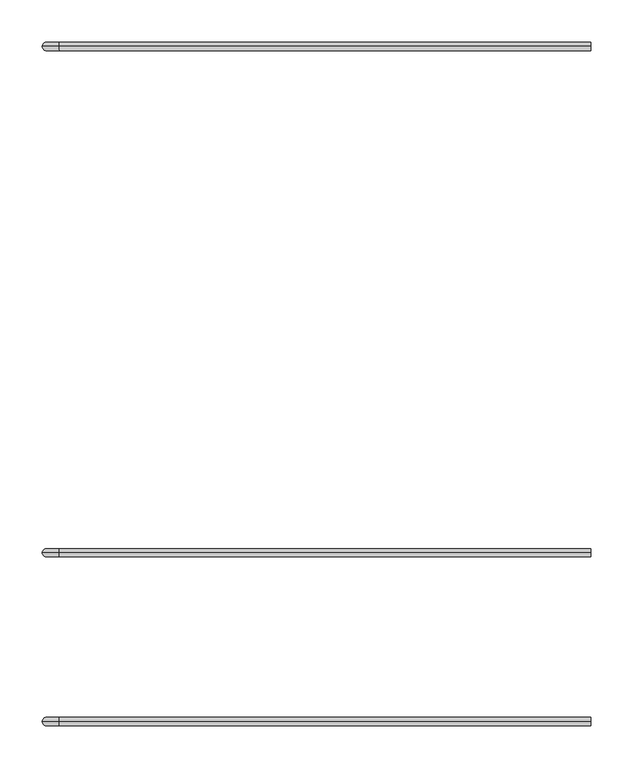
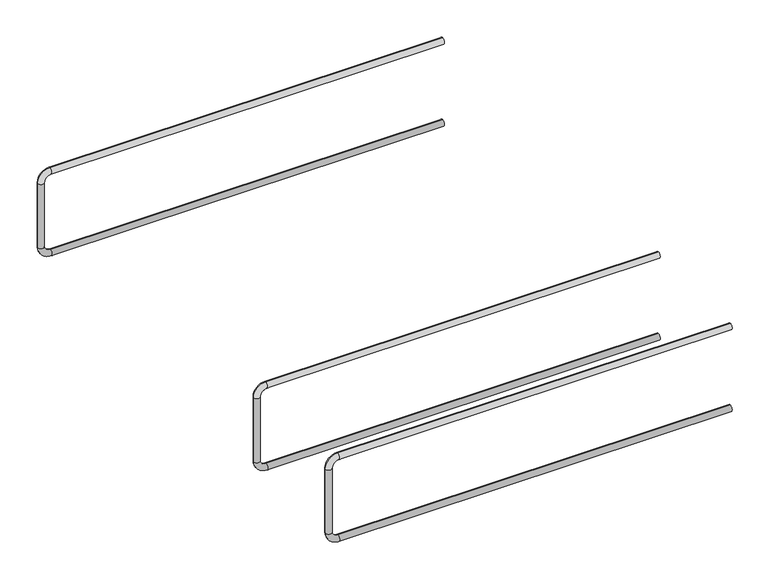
"""IFC4 building model written with IfcOpenShell, lengths in millimetres: proxy geometry, ACINOXplus_Typenreihe_Ux-Ox : UD+ S2."""

from ifc_helpers import new_model, si_unit, point, frame, origin, place, context, project, spatial, circle_curve, ellipse_curve, trimmed, source, transform, mapped, element, save
from ifc_brep_helpers import plane_surface, cylinder_surface, revolved_surface, advanced_brep


def generic_models_6559ae0d(model_context):
    return source(origin(), model_context, "Body", "AdvancedBrep", [
        advanced_brep(
        [(440.0, -200.0, -25.5), (440.0, -200.0, -35.5), (-190.0, -200.0, -25.5), (-190.0, -200.0, -35.5), (-200.0, -200.0, -45.5), (-210.0, -200.0, -45.5), (-210.0, -200.0, -154.5), (-200.0, -200.0, -154.5), (-190.0, -200.0, -164.5), (-190.0, -200.0, -174.5), (440.0, -200.0, -174.5), (440.0, -200.0, -164.5)],
        [
            (0, 1, circle_curve(frame((440.0, -200.0, -30.5), z_axis=(1.0, 0.0, 0.0), x_axis=(0.0, 0.0, -1.0)), 5.0)),
            (1, 0, circle_curve(frame((440.0, -200.0, -30.5), z_axis=(1.0, 0.0, 0.0), x_axis=(0.0, 0.0, -1.0)), 5.0)),
            (0, 2),
            (2, 3, circle_curve(frame((-190.0, -200.0, -30.5), z_axis=(1.0, 0.0, 0.0), x_axis=(0.0, 0.0, -1.0)), 5.0)),
            (3, 1),
            (3, 2, circle_curve(frame((-190.0, -200.0, -30.5), z_axis=(1.0, 0.0, 0.0), x_axis=(0.0, 0.0, -1.0)), 5.0)),
            (4, 3, circle_curve(frame((-190.0, -200.0, -45.5), z_axis=(0.0, 1.0, 0.0), x_axis=(0.0, 0.0, 1.0)), 10.0)),
            (2, 5, circle_curve(frame((-190.0, -200.0, -45.5), z_axis=(0.0, -1.0, 0.0), x_axis=(0.0, 0.0, 1.0)), 20.0)),
            (5, 4, circle_curve(frame((-205.0, -200.0, -45.5), z_axis=(0.0, 0.0, 1.0), x_axis=(1.0, 0.0, 0.0)), 5.0)),
            (4, 5, circle_curve(frame((-205.0, -200.0, -45.5), z_axis=(0.0, 0.0, 1.0), x_axis=(1.0, 0.0, 0.0)), 5.0)),
            (5, 6),
            (6, 7, circle_curve(frame((-205.0, -200.0, -154.5), z_axis=(0.0, 0.0, 1.0), x_axis=(1.0, 0.0, 0.0)), 5.0)),
            (7, 4),
            (7, 6, circle_curve(frame((-205.0, -200.0, -154.5), z_axis=(0.0, 0.0, 1.0), x_axis=(1.0, 0.0, 0.0)), 5.0)),
            (8, 7, circle_curve(frame((-190.0, -200.0, -154.5), z_axis=(0.0, 1.0, 0.0), x_axis=(-1.0, 0.0, 0.0)), 10.0)),
            (6, 9, circle_curve(frame((-190.0, -200.0, -154.5), z_axis=(0.0, -1.0, 0.0), x_axis=(-1.0, 0.0, 0.0)), 20.0)),
            (9, 8, circle_curve(frame((-190.0, -200.0, -169.5), z_axis=(-1.0, 0.0, 0.0), x_axis=(0.0, 0.0, 1.0)), 5.0)),
            (8, 9, circle_curve(frame((-190.0, -200.0, -169.5), z_axis=(-1.0, 0.0, 0.0), x_axis=(0.0, 0.0, 1.0)), 5.0)),
            (10, 11, circle_curve(frame((440.0, -200.0, -169.5), z_axis=(1.0, 0.0, 0.0), x_axis=(0.0, 0.0, 1.0)), 5.0)),
            (11, 10, circle_curve(frame((440.0, -200.0, -169.5), z_axis=(1.0, 0.0, 0.0), x_axis=(0.0, 0.0, 1.0)), 5.0)),
            (9, 10),
            (11, 8),
        ],
        [
            plane_surface(frame((440.0, -200.0, -30.5), z_axis=(1.0, 0.0, 0.0), x_axis=(0.0, -1.0, 0.0))),
            cylinder_surface(frame((440.0, -200.0, -30.5), z_axis=(1.0, 0.0, 0.0), x_axis=(0.0, 0.0, -1.0)), 5.0),
            revolved_surface(trimmed(ellipse_curve(frame((-190.0, -200.0, -30.5), z_axis=(1.0, 0.0, 0.0), x_axis=(0.0, 0.0, -1.0)), 5.0, 5.0), [point((-190.0, -200.0, -25.5))], [point((-190.0, -200.0, -35.5))], True, "CARTESIAN"), (-190.0, -200.0, -45.5), (0.0, -1.0, 0.0)),
            revolved_surface(trimmed(ellipse_curve(frame((-190.0, -200.0, -30.5), z_axis=(1.0, 0.0, 0.0), x_axis=(0.0, 0.0, -1.0)), 5.0, 5.0), [point((-190.0, -200.0, -35.5))], [point((-190.0, -200.0, -25.5))], True, "CARTESIAN"), (-190.0, -200.0, -45.5), (0.0, -1.0, 0.0)),
            cylinder_surface(frame((-205.0, -200.0, -45.5), z_axis=(0.0, 0.0, 1.0), x_axis=(1.0, 0.0, 0.0)), 5.0),
            revolved_surface(trimmed(ellipse_curve(frame((-205.0, -200.0, -154.5), z_axis=(0.0, 0.0, 1.0), x_axis=(1.0, 0.0, 0.0)), 5.0, 5.0), [point((-210.0, -200.0, -154.5))], [point((-200.0, -200.0, -154.5))], True, "CARTESIAN"), (-190.0, -200.0, -154.5), (0.0, -1.0, 0.0)),
            revolved_surface(trimmed(ellipse_curve(frame((-205.0, -200.0, -154.5), z_axis=(0.0, 0.0, 1.0), x_axis=(1.0, 0.0, 0.0)), 5.0, 5.0), [point((-200.0, -200.0, -154.5))], [point((-210.0, -200.0, -154.5))], True, "CARTESIAN"), (-190.0, -200.0, -154.5), (0.0, -1.0, 0.0)),
            plane_surface(frame((440.0, -200.0, -169.5), z_axis=(1.0, 0.0, 0.0), x_axis=(0.0, -1.0, 0.0))),
            cylinder_surface(frame((-190.0, -200.0, -169.5), z_axis=(-1.0, 0.0, 0.0), x_axis=(0.0, 0.0, 1.0)), 5.0),
        ],
        [
            (0, [[1, 2]]),
            (1, [[-1, 3, 4, 5]]),
            (1, [[-2, -5, 6, -3]]),
            (2, [[7, -4, 8, 9]]),
            (3, [[-8, -6, -7, 10]]),
            (4, [[-9, 11, 12, 13]]),
            (4, [[-10, -13, 14, -11]]),
            (5, [[15, -12, 16, 17]]),
            (6, [[-16, -14, -15, 18]]),
            (7, [[19, 20]]),
            (8, [[-17, 21, -20, 22]]),
            (8, [[-18, -22, -19, -21]]),
        ],
    ),
        advanced_brep(
        [(440.0, 400.0, -25.5), (440.0, 400.0, -35.5), (-190.0, 400.0, -25.5), (-190.0, 400.0, -35.5), (-200.0, 400.0, -45.5), (-210.0, 400.0, -45.5), (-210.0, 400.0, -154.5), (-200.0, 400.0, -154.5), (-190.0, 400.0, -164.5), (-190.0, 400.0, -174.5), (440.0, 400.0, -174.5), (440.0, 400.0, -164.5)],
        [
            (0, 1, circle_curve(frame((440.0, 400.0, -30.5), z_axis=(1.0, 0.0, 0.0), x_axis=(0.0, 0.0, -1.0)), 5.0)),
            (1, 0, circle_curve(frame((440.0, 400.0, -30.5), z_axis=(1.0, 0.0, 0.0), x_axis=(0.0, 0.0, -1.0)), 5.0)),
            (0, 2),
            (2, 3, circle_curve(frame((-190.0, 400.0, -30.5), z_axis=(1.0, 0.0, 0.0), x_axis=(0.0, 0.0, -1.0)), 5.0)),
            (3, 1),
            (3, 2, circle_curve(frame((-190.0, 400.0, -30.5), z_axis=(1.0, 0.0, 0.0), x_axis=(0.0, 0.0, -1.0)), 5.0)),
            (4, 3, circle_curve(frame((-190.0, 400.0, -45.5), z_axis=(0.0, 1.0, 0.0), x_axis=(0.0, 0.0, 1.0)), 10.0)),
            (2, 5, circle_curve(frame((-190.0, 400.0, -45.5), z_axis=(0.0, -1.0, 0.0), x_axis=(0.0, 0.0, 1.0)), 20.0)),
            (5, 4, circle_curve(frame((-205.0, 400.0, -45.5), z_axis=(0.0, 0.0, 1.0), x_axis=(1.0, 0.0, 0.0)), 5.0)),
            (4, 5, circle_curve(frame((-205.0, 400.0, -45.5), z_axis=(0.0, 0.0, 1.0), x_axis=(1.0, 0.0, 0.0)), 5.0)),
            (5, 6),
            (6, 7, circle_curve(frame((-205.0, 400.0, -154.5), z_axis=(0.0, 0.0, 1.0), x_axis=(1.0, 0.0, 0.0)), 5.0)),
            (7, 4),
            (7, 6, circle_curve(frame((-205.0, 400.0, -154.5), z_axis=(0.0, 0.0, 1.0), x_axis=(1.0, 0.0, 0.0)), 5.0)),
            (8, 7, circle_curve(frame((-190.0, 400.0, -154.5), z_axis=(0.0, 1.0, 0.0), x_axis=(-1.0, 0.0, 0.0)), 10.0)),
            (6, 9, circle_curve(frame((-190.0, 400.0, -154.5), z_axis=(0.0, -1.0, 0.0), x_axis=(-1.0, 0.0, 0.0)), 20.0)),
            (9, 8, circle_curve(frame((-190.0, 400.0, -169.5), z_axis=(-1.0, 0.0, 0.0), x_axis=(0.0, 0.0, 1.0)), 5.0)),
            (8, 9, circle_curve(frame((-190.0, 400.0, -169.5), z_axis=(-1.0, 0.0, 0.0), x_axis=(0.0, 0.0, 1.0)), 5.0)),
            (10, 11, circle_curve(frame((440.0, 400.0, -169.5), z_axis=(1.0, 0.0, 0.0), x_axis=(0.0, 0.0, 1.0)), 5.0)),
            (11, 10, circle_curve(frame((440.0, 400.0, -169.5), z_axis=(1.0, 0.0, 0.0), x_axis=(0.0, 0.0, 1.0)), 5.0)),
            (9, 10),
            (11, 8),
        ],
        [
            plane_surface(frame((440.0, 400.0, -30.5), z_axis=(1.0, 0.0, 0.0), x_axis=(0.0, -1.0, 0.0))),
            cylinder_surface(frame((440.0, 400.0, -30.5), z_axis=(1.0, 0.0, 0.0), x_axis=(0.0, 0.0, -1.0)), 5.0),
            revolved_surface(trimmed(ellipse_curve(frame((-190.0, 400.0, -30.5), z_axis=(1.0, 0.0, 0.0), x_axis=(0.0, 0.0, -1.0)), 5.0, 5.0), [point((-190.0, 400.0, -25.5))], [point((-190.0, 400.0, -35.5))], True, "CARTESIAN"), (-190.0, 400.0, -45.5), (0.0, -1.0, 0.0)),
            revolved_surface(trimmed(ellipse_curve(frame((-190.0, 400.0, -30.5), z_axis=(1.0, 0.0, 0.0), x_axis=(0.0, 0.0, -1.0)), 5.0, 5.0), [point((-190.0, 400.0, -35.5))], [point((-190.0, 400.0, -25.5))], True, "CARTESIAN"), (-190.0, 400.0, -45.5), (0.0, -1.0, 0.0)),
            cylinder_surface(frame((-205.0, 400.0, -45.5), z_axis=(0.0, 0.0, 1.0), x_axis=(1.0, 0.0, 0.0)), 5.0),
            revolved_surface(trimmed(ellipse_curve(frame((-205.0, 400.0, -154.5), z_axis=(0.0, 0.0, 1.0), x_axis=(1.0, 0.0, 0.0)), 5.0, 5.0), [point((-210.0, 400.0, -154.5))], [point((-200.0, 400.0, -154.5))], True, "CARTESIAN"), (-190.0, 400.0, -154.5), (0.0, -1.0, 0.0)),
            revolved_surface(trimmed(ellipse_curve(frame((-205.0, 400.0, -154.5), z_axis=(0.0, 0.0, 1.0), x_axis=(1.0, 0.0, 0.0)), 5.0, 5.0), [point((-200.0, 400.0, -154.5))], [point((-210.0, 400.0, -154.5))], True, "CARTESIAN"), (-190.0, 400.0, -154.5), (0.0, -1.0, 0.0)),
            plane_surface(frame((440.0, 400.0, -169.5), z_axis=(1.0, 0.0, 0.0), x_axis=(0.0, -1.0, 0.0))),
            cylinder_surface(frame((-190.0, 400.0, -169.5), z_axis=(-1.0, 0.0, 0.0), x_axis=(0.0, 0.0, 1.0)), 5.0),
        ],
        [
            (0, [[1, 2]]),
            (1, [[-1, 3, 4, 5]]),
            (1, [[-2, -5, 6, -3]]),
            (2, [[7, -4, 8, 9]]),
            (3, [[-8, -6, -7, 10]]),
            (4, [[-9, 11, 12, 13]]),
            (4, [[-10, -13, 14, -11]]),
            (5, [[15, -12, 16, 17]]),
            (6, [[-16, -14, -15, 18]]),
            (7, [[19, 20]]),
            (8, [[-17, 21, -20, 22]]),
            (8, [[-18, -22, -19, -21]]),
        ],
    ),
        advanced_brep(
        [(440.0, -400.0, -25.5), (440.0, -400.0, -35.5), (-190.0, -400.0, -25.5), (-190.0, -400.0, -35.5), (-200.0, -400.0, -45.5), (-210.0, -400.0, -45.5), (-210.0, -400.0, -154.5), (-200.0, -400.0, -154.5), (-190.0, -400.0, -164.5), (-190.0, -400.0, -174.5), (440.0, -400.0, -174.5), (440.0, -400.0, -164.5)],
        [
            (0, 1, circle_curve(frame((440.0, -400.0, -30.5), z_axis=(1.0, 0.0, 0.0), x_axis=(0.0, 0.0, -1.0)), 5.0)),
            (1, 0, circle_curve(frame((440.0, -400.0, -30.5), z_axis=(1.0, 0.0, 0.0), x_axis=(0.0, 0.0, -1.0)), 5.0)),
            (0, 2),
            (2, 3, circle_curve(frame((-190.0, -400.0, -30.5), z_axis=(1.0, 0.0, 0.0), x_axis=(0.0, 0.0, -1.0)), 5.0)),
            (3, 1),
            (3, 2, circle_curve(frame((-190.0, -400.0, -30.5), z_axis=(1.0, 0.0, 0.0), x_axis=(0.0, 0.0, -1.0)), 5.0)),
            (4, 3, circle_curve(frame((-190.0, -400.0, -45.5), z_axis=(0.0, 1.0, 0.0), x_axis=(0.0, 0.0, 1.0)), 10.0)),
            (2, 5, circle_curve(frame((-190.0, -400.0, -45.5), z_axis=(0.0, -1.0, 0.0), x_axis=(0.0, 0.0, 1.0)), 20.0)),
            (5, 4, circle_curve(frame((-205.0, -400.0, -45.5), z_axis=(0.0, 0.0, 1.0), x_axis=(1.0, 0.0, 0.0)), 5.0)),
            (4, 5, circle_curve(frame((-205.0, -400.0, -45.5), z_axis=(0.0, 0.0, 1.0), x_axis=(1.0, 0.0, 0.0)), 5.0)),
            (5, 6),
            (6, 7, circle_curve(frame((-205.0, -400.0, -154.5), z_axis=(0.0, 0.0, 1.0), x_axis=(1.0, 0.0, 0.0)), 5.0)),
            (7, 4),
            (7, 6, circle_curve(frame((-205.0, -400.0, -154.5), z_axis=(0.0, 0.0, 1.0), x_axis=(1.0, 0.0, 0.0)), 5.0)),
            (8, 7, circle_curve(frame((-190.0, -400.0, -154.5), z_axis=(0.0, 1.0, 0.0), x_axis=(-1.0, 0.0, 0.0)), 10.0)),
            (6, 9, circle_curve(frame((-190.0, -400.0, -154.5), z_axis=(0.0, -1.0, 0.0), x_axis=(-1.0, 0.0, 0.0)), 20.0)),
            (9, 8, circle_curve(frame((-190.0, -400.0, -169.5), z_axis=(-1.0, 0.0, 0.0), x_axis=(0.0, 0.0, 1.0)), 5.0)),
            (8, 9, circle_curve(frame((-190.0, -400.0, -169.5), z_axis=(-1.0, 0.0, 0.0), x_axis=(0.0, 0.0, 1.0)), 5.0)),
            (10, 11, circle_curve(frame((440.0, -400.0, -169.5), z_axis=(1.0, 0.0, 0.0), x_axis=(0.0, 0.0, 1.0)), 5.0)),
            (11, 10, circle_curve(frame((440.0, -400.0, -169.5), z_axis=(1.0, 0.0, 0.0), x_axis=(0.0, 0.0, 1.0)), 5.0)),
            (9, 10),
            (11, 8),
        ],
        [
            plane_surface(frame((440.0, -400.0, -30.5), z_axis=(1.0, 0.0, 0.0), x_axis=(0.0, -1.0, 0.0))),
            cylinder_surface(frame((440.0, -400.0, -30.5), z_axis=(1.0, 0.0, 0.0), x_axis=(0.0, 0.0, -1.0)), 5.0),
            revolved_surface(trimmed(ellipse_curve(frame((-190.0, -400.0, -30.5), z_axis=(1.0, 0.0, 0.0), x_axis=(0.0, 0.0, -1.0)), 5.0, 5.0), [point((-190.0, -400.0, -25.5))], [point((-190.0, -400.0, -35.5))], True, "CARTESIAN"), (-190.0, -400.0, -45.5), (0.0, -1.0, 0.0)),
            revolved_surface(trimmed(ellipse_curve(frame((-190.0, -400.0, -30.5), z_axis=(1.0, 0.0, 0.0), x_axis=(0.0, 0.0, -1.0)), 5.0, 5.0), [point((-190.0, -400.0, -35.5))], [point((-190.0, -400.0, -25.5))], True, "CARTESIAN"), (-190.0, -400.0, -45.5), (0.0, -1.0, 0.0)),
            cylinder_surface(frame((-205.0, -400.0, -45.5), z_axis=(0.0, 0.0, 1.0), x_axis=(1.0, 0.0, 0.0)), 5.0),
            revolved_surface(trimmed(ellipse_curve(frame((-205.0, -400.0, -154.5), z_axis=(0.0, 0.0, 1.0), x_axis=(1.0, 0.0, 0.0)), 5.0, 5.0), [point((-210.0, -400.0, -154.5))], [point((-200.0, -400.0, -154.5))], True, "CARTESIAN"), (-190.0, -400.0, -154.5), (0.0, -1.0, 0.0)),
            revolved_surface(trimmed(ellipse_curve(frame((-205.0, -400.0, -154.5), z_axis=(0.0, 0.0, 1.0), x_axis=(1.0, 0.0, 0.0)), 5.0, 5.0), [point((-200.0, -400.0, -154.5))], [point((-210.0, -400.0, -154.5))], True, "CARTESIAN"), (-190.0, -400.0, -154.5), (0.0, -1.0, 0.0)),
            plane_surface(frame((440.0, -400.0, -169.5), z_axis=(1.0, 0.0, 0.0), x_axis=(0.0, -1.0, 0.0))),
            cylinder_surface(frame((-190.0, -400.0, -169.5), z_axis=(-1.0, 0.0, 0.0), x_axis=(0.0, 0.0, 1.0)), 5.0),
        ],
        [
            (0, [[1, 2]]),
            (1, [[-1, 3, 4, 5]]),
            (1, [[-2, -5, 6, -3]]),
            (2, [[7, -4, 8, 9]]),
            (3, [[-8, -6, -7, 10]]),
            (4, [[-9, 11, 12, 13]]),
            (4, [[-10, -13, 14, -11]]),
            (5, [[15, -12, 16, 17]]),
            (6, [[-16, -14, -15, 18]]),
            (7, [[19, 20]]),
            (8, [[-17, 21, -20, 22]]),
            (8, [[-18, -22, -19, -21]]),
        ],
    ),
    ])


if __name__ == "__main__":
    model = new_model("IFC4")
    model_context = context("Model", 3, world=origin())
    ifc_project = project(units=[si_unit("LENGTHUNIT", "METRE", prefix="MILLI")], contexts=[model_context])
    site = spatial("IfcSite", under=ifc_project)
    building = spatial("IfcBuilding", under=site)
    placement = place(None, origin())
    generic_models_shape = generic_models_6559ae0d(model_context)
    element("IfcBuildingElementProxy", 1, Name="ACINOXplus_Typenreihe_Ux-Ox : UD+ S2", ObjectType="ACINOXplus_Typenreihe_Ux-Ox : UD+ S2", at=placement, inside=building, context=model_context, shape_type="MappedRepresentation", body=[
        mapped(generic_models_shape, transform((0.0, 0.0, 0.0), x_axis=(1.0, 0.0, 0.0), y_axis=(0.0, 1.0, 0.0), z_axis=(0.0, 0.0, 1.0))),
    ])
    save(model, "model.ifc")
